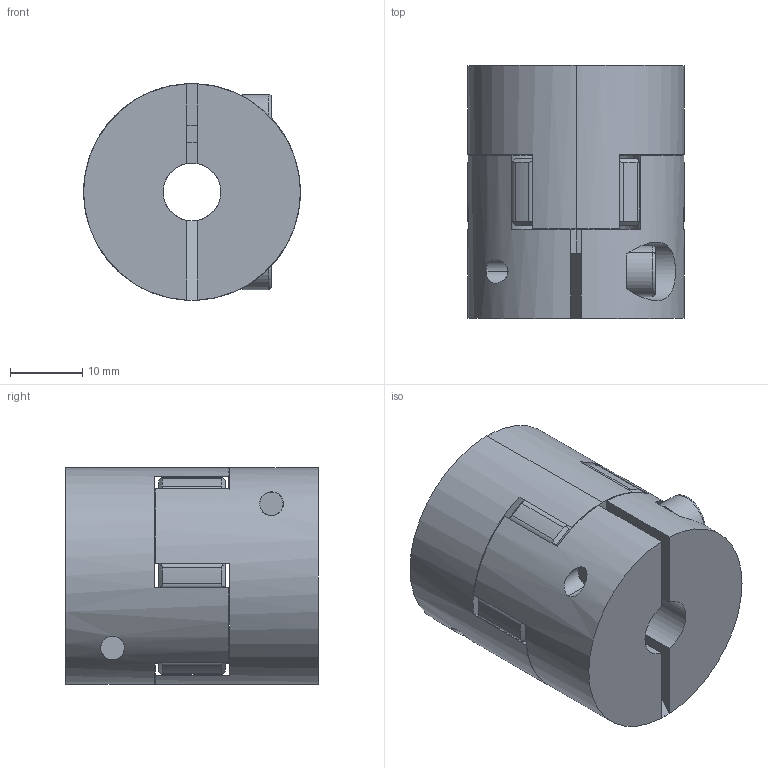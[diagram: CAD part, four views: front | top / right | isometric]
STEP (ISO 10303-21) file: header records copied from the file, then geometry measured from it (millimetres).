
FILE_DESCRIPTION (( 'STEP AP214' ), '1' );
FILE_NAME ('2.5004 Sakarakytkin MM2 30 D8_8.STEP', '2024-05-30T12:28:15', ( '' ), ( '' ), 'SwSTEP 2.0', 'SolidWorks 2024', '' );
FILE_SCHEMA (( 'AUTOMOTIVE_DESIGN' ));
Length unit declared in the file: millimetre
Products named in the file (1): 2.5004 Sakarakytkin MM2 30 D8_8
Bounding box: 30 x 35 x 30 mm (x, y, z)
Surface area: 8824.9 mm2 (no closed solid volume)
Topology: 0 solids, 7 shells, 148 faces, 510 edges, 352 vertices
Faces by surface type: plane 50, cone 48, cylinder 46, bspline 4
Entity records: 7660 total; most frequent: CARTESIAN_POINT 1753, DIRECTION 898, ORIENTED_EDGE 836, EDGE_CURVE 506, AXIS2_PLACEMENT_3D 369, VERTEX_POINT 352, CIRCLE 224, EDGE_LOOP 173
